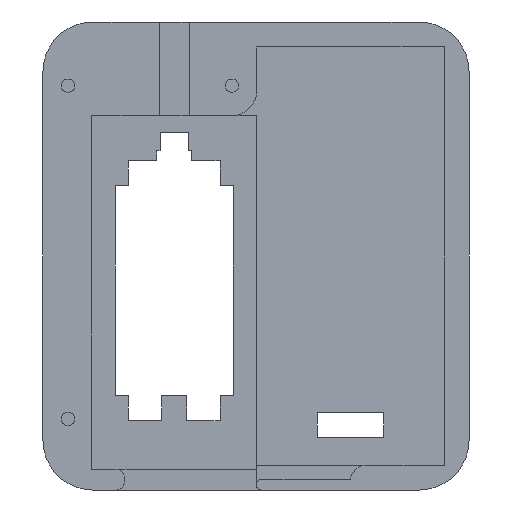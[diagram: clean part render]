
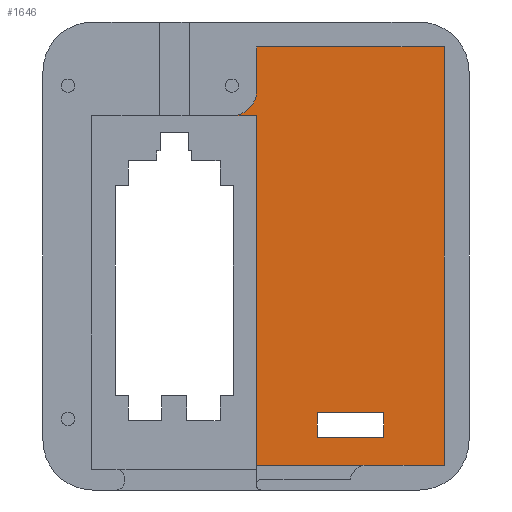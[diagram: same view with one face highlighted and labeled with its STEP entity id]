
A CAD part, front view. The second image highlights one B-rep face of the part: STEP entity #1646.
In plain terms, the highlighted planar face has unit normal (0, -1, 0).
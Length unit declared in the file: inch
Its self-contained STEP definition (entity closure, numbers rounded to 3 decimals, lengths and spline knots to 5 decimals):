
#24=FACE_BOUND('',#239,.T.);
#53=PLANE('',#1788);
#143=FACE_OUTER_BOUND('',#238,.T.);
#238=EDGE_LOOP('',(#1365,#1366,#1367,#1368,#1369,#1370,#1371));
#239=EDGE_LOOP('',(#1372,#1373,#1374,#1375));
#284=LINE('',#2299,#483);
#307=LINE('',#2359,#506);
#386=LINE('',#2577,#585);
#394=LINE('',#2592,#593);
#396=LINE('',#2596,#595);
#397=LINE('',#2598,#596);
#398=LINE('',#2601,#597);
#400=LINE('',#2605,#599);
#402=LINE('',#2608,#601);
#403=LINE('',#2610,#602);
#483=VECTOR('',#1842,0.3937);
#506=VECTOR('',#1885,0.3937);
#585=VECTOR('',#2090,0.3937);
#593=VECTOR('',#2106,0.3937);
#595=VECTOR('',#2110,0.3937);
#596=VECTOR('',#2113,0.3937);
#597=VECTOR('',#2116,0.3937);
#599=VECTOR('',#2120,0.3937);
#601=VECTOR('',#2124,0.3937);
#602=VECTOR('',#2127,0.3937);
#681=CIRCLE('',#1704,0.15);
#720=VERTEX_POINT('',#2292);
#721=VERTEX_POINT('',#2294);
#722=VERTEX_POINT('',#2298);
#748=VERTEX_POINT('',#2356);
#749=VERTEX_POINT('',#2358);
#824=VERTEX_POINT('',#2574);
#825=VERTEX_POINT('',#2576);
#828=VERTEX_POINT('',#2590);
#829=VERTEX_POINT('',#2594);
#830=VERTEX_POINT('',#2600);
#831=VERTEX_POINT('',#2604);
#872=EDGE_CURVE('',#720,#721,#681,.F.);
#874=EDGE_CURVE('',#720,#722,#284,.T.);
#904=EDGE_CURVE('',#749,#748,#307,.T.);
#1012=EDGE_CURVE('',#825,#824,#386,.T.);
#1020=EDGE_CURVE('',#824,#828,#394,.T.);
#1022=EDGE_CURVE('',#828,#829,#396,.T.);
#1023=EDGE_CURVE('',#829,#825,#397,.T.);
#1024=EDGE_CURVE('',#721,#830,#398,.T.);
#1026=EDGE_CURVE('',#831,#830,#400,.T.);
#1028=EDGE_CURVE('',#748,#831,#402,.T.);
#1029=EDGE_CURVE('',#749,#722,#403,.T.);
#1365=ORIENTED_EDGE('',*,*,#1029,.F.);
#1366=ORIENTED_EDGE('',*,*,#904,.T.);
#1367=ORIENTED_EDGE('',*,*,#1028,.T.);
#1368=ORIENTED_EDGE('',*,*,#1026,.T.);
#1369=ORIENTED_EDGE('',*,*,#1024,.F.);
#1370=ORIENTED_EDGE('',*,*,#872,.F.);
#1371=ORIENTED_EDGE('',*,*,#874,.T.);
#1372=ORIENTED_EDGE('',*,*,#1023,.T.);
#1373=ORIENTED_EDGE('',*,*,#1012,.T.);
#1374=ORIENTED_EDGE('',*,*,#1020,.T.);
#1375=ORIENTED_EDGE('',*,*,#1022,.T.);
#1646=ADVANCED_FACE('',(#143,#24),#53,.F.);
#1704=AXIS2_PLACEMENT_3D('',#2295,#1837,#1838);
#1788=AXIS2_PLACEMENT_3D('',#2609,#2125,#2126);
#1837=DIRECTION('center_axis',(0.,1.,0.));
#1838=DIRECTION('ref_axis',(0.707,0.,-0.707));
#1842=DIRECTION('',(1.,0.,0.));
#1885=DIRECTION('',(1.,0.,0.));
#2090=DIRECTION('',(0.,0.,-1.));
#2106=DIRECTION('',(-1.,0.,0.));
#2110=DIRECTION('',(0.,0.,1.));
#2113=DIRECTION('',(1.,0.,0.));
#2116=DIRECTION('',(0.,0.,1.));
#2120=DIRECTION('',(-1.,0.,0.));
#2124=DIRECTION('',(0.,0.,1.));
#2125=DIRECTION('center_axis',(0.,1.,0.));
#2126=DIRECTION('ref_axis',(1.,0.,0.));
#2127=DIRECTION('',(0.,0.,1.));
#2292=CARTESIAN_POINT('',(0.345,-0.1,1.05));
#2294=CARTESIAN_POINT('',(0.495,-0.1,1.2));
#2295=CARTESIAN_POINT('Origin',(0.345,-0.1,1.2));
#2298=CARTESIAN_POINT('',(0.495,-0.1,1.05));
#2299=CARTESIAN_POINT('',(0.28125,-0.1,1.05));
#2356=CARTESIAN_POINT('',(1.62,-0.1,-1.04708));
#2358=CARTESIAN_POINT('',(0.495,-0.1,-1.04708));
#2359=CARTESIAN_POINT('',(0.495,-0.1,-1.04708));
#2574=CARTESIAN_POINT('',(1.25757,-0.1,-0.88208));
#2576=CARTESIAN_POINT('',(1.25764,-0.1,-0.73208));
#2577=CARTESIAN_POINT('',(1.25781,-0.1,-0.3372));
#2590=CARTESIAN_POINT('',(0.85757,-0.1,-0.88208));
#2592=CARTESIAN_POINT('',(0.95753,-0.1,-0.88208));
#2594=CARTESIAN_POINT('',(0.85764,-0.1,-0.73208));
#2596=CARTESIAN_POINT('',(0.85785,-0.1,-0.26211));
#2598=CARTESIAN_POINT('',(1.15757,-0.1,-0.73208));
#2600=CARTESIAN_POINT('',(0.495,-0.1,1.4626));
#2601=CARTESIAN_POINT('',(0.495,-0.1,-1.07208));
#2604=CARTESIAN_POINT('',(1.62,-0.1,1.4626));
#2605=CARTESIAN_POINT('',(1.62,-0.1,1.4626));
#2608=CARTESIAN_POINT('',(1.62,-0.1,-1.04708));
#2609=CARTESIAN_POINT('Origin',(1.0575,-0.1,0.20776));
#2610=CARTESIAN_POINT('',(0.495,-0.1,0.62888));
